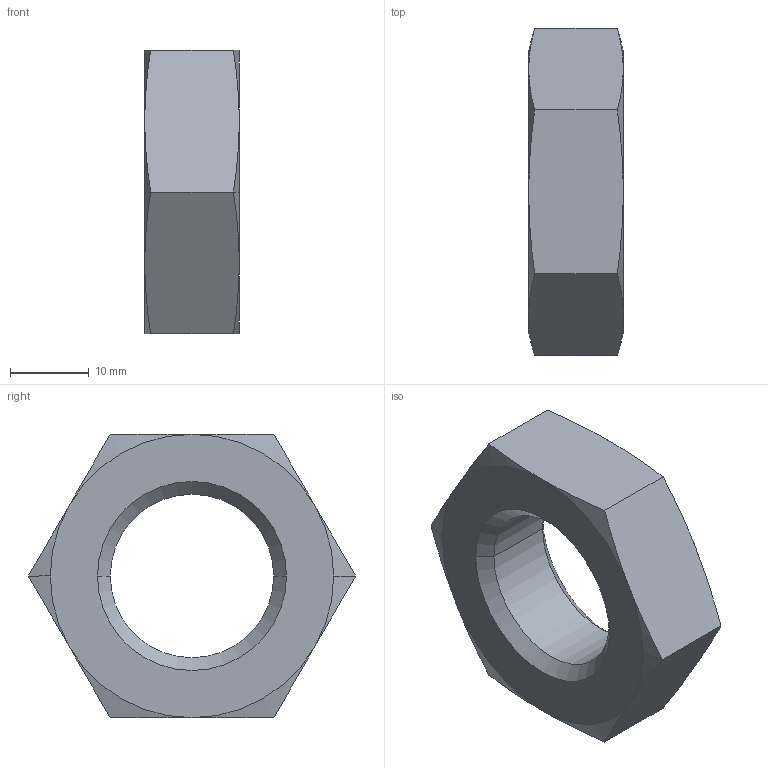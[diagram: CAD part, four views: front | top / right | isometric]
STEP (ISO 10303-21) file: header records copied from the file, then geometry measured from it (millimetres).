
FILE_DESCRIPTION(('STEP AP214'),'1');
FILE_NAME('6460324.stp','2019-07-16T13:55:01',('TraceParts'),('TraceParts S.A.'),'Spatial InterOp 3D',' ',' ');
FILE_SCHEMA(('AUTOMOTIVE_DESIGN { 1 0 10303 214 1 1 1 1 }'));
Length unit declared in the file: millimetre
Products named in the file (1): 6460324
Bounding box: 12 x 41.57 x 36 mm (x, y, z)
Volume: 9181.8 mm3; surface area: 3673.5 mm2
Topology: 1 solids, 1 shells, 30 faces, 64 edges, 36 vertices
Faces by surface type: cone 20, plane 8, cylinder 2
Entity records: 1036 total; most frequent: CARTESIAN_POINT 179, ORIENTED_EDGE 128, DIRECTION 126, EDGE_CURVE 64, AXIS2_PLACEMENT_3D 55, VERTEX_POINT 36, EDGE_LOOP 32, STYLED_ITEM 31
